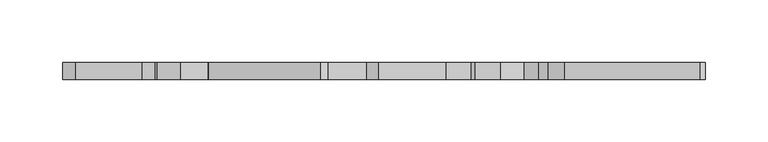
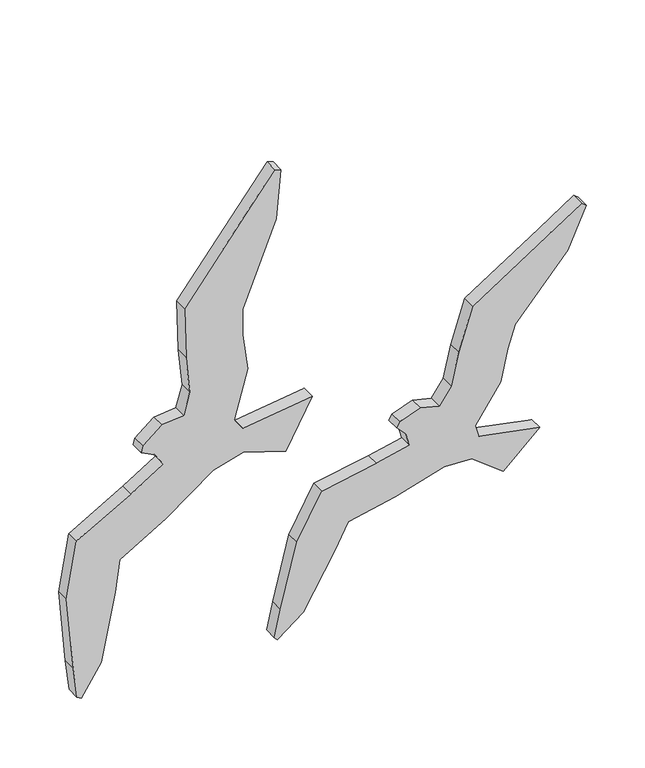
"""IFC4 building model written with IfcOpenShell, lengths in millimetres: geographic element geometry, Enscape AssetDefinition - Decorative Goods 018 Swallow Birds : Enscape AssetDefinition - Decorative Goods 018 Swallow Birds 2."""

import ifcopenshell
import ifcopenshell.guid

model = None  # the IFC model being written
_history = None  # IfcOwnerHistory: only IFC2X3 demands one
_inside = {}  # id of a spatial element -> (the spatial element, [elements in it])
_under = {}  # id of a project, library or spatial element -> (it, [spatial elements below it])
_declared = {}  # id of a project -> (the project, [libraries it declares])
_typed = {}  # id of a type object -> (the type object, [elements of that type])
_made_of = {}  # id of a material, layer set ... -> (it, [elements and type objects made of it])


def new_model(schema):
    """Start an empty IFC model of exactly this schema.

    Asked for "IFC4X3", IfcOpenShell would pick the latest addendum, in which some entities
    have other attributes; the version numbers below select the first issue.
    IFC2X3 requires an IfcOwnerHistory on every rooted entity: one is made here for all.
    """
    global model, _history
    if schema == "IFC4X3":
        model = ifcopenshell.file(schema_version=(4, 3, 0, 0))
    else:
        model = ifcopenshell.file(schema=schema)
    _inside.clear()
    _under.clear()
    _declared.clear()
    _typed.clear()
    _made_of.clear()
    _history = None
    if model.schema == "IFC2X3":
        org = make("IfcOrganization", Name="unknown")
        user = make(
            "IfcPersonAndOrganization",
            ThePerson=make("IfcPerson", FamilyName="unknown"),
            TheOrganization=org,
        )
        app = make(
            "IfcApplication",
            ApplicationDeveloper=org,
            Version="unknown",
            ApplicationFullName="unknown",
            ApplicationIdentifier="unknown",
        )
        _history = make(
            "IfcOwnerHistory",
            OwningUser=user,
            OwningApplication=app,
            ChangeAction="ADDED",
            CreationDate=0,
        )
    return model


def make(cls, **values):
    """One entity of the class cls with the attributes given. An attribute that is None is left unset."""
    return model.create_entity(
        cls, **{name: value for name, value in values.items() if value is not None}
    )


def rooted(cls, **values):
    """An entity with a GlobalId (a new one), such as an element, a storey or a relation."""
    return make(cls, GlobalId=ifcopenshell.guid.new(), OwnerHistory=_history, **values)


def si_unit(unit_type, name, prefix=None):
    """IfcSIUnit, for example si_unit("LENGTHUNIT", "METRE", prefix="MILLI")."""
    return make("IfcSIUnit", UnitType=unit_type, Prefix=prefix, Name=name)


def assignment(units):
    """IfcUnitAssignment: the units of a project."""
    return None if units is None else make("IfcUnitAssignment", Units=units)


def point(xyz):
    """IfcCartesianPoint."""
    return None if xyz is None else make("IfcCartesianPoint", Coordinates=xyz)


def direction(xyz):
    """IfcDirection."""
    return None if xyz is None else make("IfcDirection", DirectionRatios=xyz)


def frame(location, z_axis=None, x_axis=None):
    """IfcAxis2Placement3D, a coordinate frame: its origin and axes. An axis left out is left unset."""
    return make(
        "IfcAxis2Placement3D",
        Location=point(location),
        Axis=direction(z_axis),
        RefDirection=direction(x_axis),
    )


def origin():
    """The frame at (0, 0, 0) with its axes left unset."""
    return frame((0.0, 0.0, 0.0))


def place(relative_to, where):
    """IfcLocalPlacement: puts the frame where relative to a parent placement (None: the world)."""
    return make(
        "IfcLocalPlacement", PlacementRelTo=relative_to, RelativePlacement=where
    )


def context(
    kind, dimensions, precision=None, world=None, true_north=None, identifier=None
):
    """IfcGeometricRepresentationContext, for example the 3D "Model" context."""
    return make(
        "IfcGeometricRepresentationContext",
        ContextIdentifier=identifier,
        ContextType=kind,
        CoordinateSpaceDimension=dimensions,
        Precision=precision,
        WorldCoordinateSystem=world,
        TrueNorth=true_north,
    )


def project(units=None, contexts=None):
    """IfcProject with its units and contexts."""
    return rooted(
        "IfcProject",
        Name="project",
        RepresentationContexts=contexts,
        UnitsInContext=assignment(units),
    )


def spatial(cls, under=None, at=None, **own):
    """A site, building, storey or space (cls), placed at a placement, below another one or the project."""
    s = rooted(cls, ObjectPlacement=at, **own)
    if under is not None:
        _under.setdefault(under.id(), (under, []))[1].append(s)
    return s


def point_list(points):
    """IfcCartesianPointList2D or 3D."""
    cls = (
        "IfcCartesianPointList2D" if len(points[0]) == 2 else "IfcCartesianPointList3D"
    )
    return make(cls, CoordList=points)


def triangles(points, corners, closed=None, point_numbers=None):
    """IfcTriangulatedFaceSet: each triangle names its three corners, points numbered from 1."""
    return make(
        "IfcTriangulatedFaceSet",
        Coordinates=point_list(points),
        Closed=closed,
        CoordIndex=corners,
        PnIndex=point_numbers,
    )


def shape(context_of_items, identifier, shape_type, items):
    """IfcShapeRepresentation: the items that make up one representation, for example the "Body"."""
    return make(
        "IfcShapeRepresentation",
        ContextOfItems=context_of_items,
        RepresentationIdentifier=identifier,
        RepresentationType=shape_type,
        Items=items,
    )


def source(mapping_origin, context_of_items, identifier, shape_type, items):
    """IfcRepresentationMap: a shape defined once, which mapped items show again and again."""
    return make(
        "IfcRepresentationMap",
        MappingOrigin=mapping_origin,
        MappedRepresentation=shape(context_of_items, identifier, shape_type, items),
    )


def transform(
    local_origin,
    x_axis=None,
    y_axis=None,
    z_axis=None,
    scale=None,
    scale2=None,
    scale3=None,
    uniform=True,
):
    """IfcCartesianTransformationOperator3D, or its non-uniform kind. x_axis, y_axis, z_axis: its Axis1, 2, 3."""
    if uniform:
        return make(
            "IfcCartesianTransformationOperator3D",
            Axis1=direction(x_axis),
            Axis2=direction(y_axis),
            LocalOrigin=point(local_origin),
            Scale=scale,
            Axis3=direction(z_axis),
        )
    return make(
        "IfcCartesianTransformationOperator3DnonUniform",
        Axis1=direction(x_axis),
        Axis2=direction(y_axis),
        LocalOrigin=point(local_origin),
        Scale=scale,
        Axis3=direction(z_axis),
        Scale2=scale2,
        Scale3=scale3,
    )


def mapped(mapping_source, mapping_target):
    """IfcMappedItem: shows the shape of a source again, moved by a transform."""
    return make(
        "IfcMappedItem", MappingSource=mapping_source, MappingTarget=mapping_target
    )


def made_of(thing, what):
    """Note that an element or type object is made of a material, layer set ...; save() writes the relation."""
    if what is not None:
        _made_of.setdefault(what.id(), (what, []))[1].append(thing)
    return thing


def element(
    cls,
    number,
    at=None,
    inside=None,
    cuts=None,
    type_object=None,
    material=None,
    context=None,
    identifier="Body",
    shape_type=None,
    held_by="IfcProductDefinitionShape",
    body=None,
    shapes=None,
    **own,
):
    """One element of the class cls, such as IfcWall. Its Tag is "e" and its number.

    at: its placement. inside: the storey or other place that contains it. cuts: it is an
    opening in that element (IfcRelVoidsElement). A single representation is given by context,
    identifier, shape_type and body (its items); several are given by shapes. held_by: the class
    of the entity that holds the representations. save() writes the other relations.
    """
    e = rooted(cls, Tag="e%d" % number, ObjectPlacement=at, **own)
    if body is not None:
        shapes = [shape(context, identifier, shape_type, body)]
    if shapes is not None:
        e.Representation = make(held_by, Representations=shapes)
    if inside is not None:
        _inside.setdefault(inside.id(), (inside, []))[1].append(e)
    if cuts is not None:
        rooted(
            "IfcRelVoidsElement", RelatingBuildingElement=cuts, RelatedOpeningElement=e
        )
    if type_object is not None:
        _typed.setdefault(type_object.id(), (type_object, []))[1].append(e)
    return made_of(e, material)


def aggregate(whole, parts):
    """IfcRelAggregates: a whole, such as a stair, and the parts it consists of."""
    return rooted("IfcRelAggregates", RelatingObject=whole, RelatedObjects=parts)


def save(model, path):
    """Write the relations noted so far, then the file.

    IfcRelAggregates (storeys below a building ...), IfcRelContainedInSpatialStructure (elements
    in a storey), IfcRelDefinesByType, IfcRelAssociatesMaterial and IfcRelDeclares: one each for
    every whole, place, type object, material and project.
    """
    for whole, parts in _under.values():
        aggregate(whole, parts)
    for where, things in _inside.values():
        rooted(
            "IfcRelContainedInSpatialStructure",
            RelatedElements=things,
            RelatingStructure=where,
        )
    for kind, things in _typed.values():
        rooted("IfcRelDefinesByType", RelatedObjects=things, RelatingType=kind)
    for what, things in _made_of.values():
        rooted("IfcRelAssociatesMaterial", RelatedObjects=things, RelatingMaterial=what)
    for by, libraries in _declared.values():
        rooted("IfcRelDeclares", RelatingContext=by, RelatedDefinitions=libraries)
    model.write(path)


def geographic_element_6bdd7eda(model_context):
    return source(origin(), model_context, "Body", "Tessellation", [
        triangles([(-137.8004278, -13.4706644, 434.7301143), (-139.2496762, -13.4706655, 486.0797416), (-137.8004278, -3.12e-05, 434.7301143), (-134.0352507, -13.4706497, 397.1987206), (-78.8184539, -6.81e-05, 563.3999494), (-139.2496762, -4.65e-05, 486.0797416), (-49.0557085, -6.36e-05, 548.0691264), (-81.8521078, -4.09e-05, 465.6930499), (-81.8942109, -3.29e-05, 438.8560616), (-44.3982438, -7.72e-05, 597.869357), (-49.0557085, -13.470669, 548.0691264), (-78.8184539, -13.470669, 563.3999494), (-50.2843807, -13.4706701, 600.0000046), (-44.3982438, -13.4706712, 597.869357), (-50.2843807, -7.89e-05, 600.0000046), (-81.8521078, -13.4706644, 465.6930499), (-81.8942109, -13.4706633, 438.8560616), (-77.0417273, -13.4706519, 401.7286039), (-77.0417273, -3.29e-05, 401.7286039), (-90.232501, -13.4706497, 353.1734645), (-134.0352507, -3.23e-05, 397.1987206), (-162.030099, -13.4706497, 373.1783117), (-140.2048777, -2.61e-05, 374.943829), (-140.2048777, -13.4706497, 374.943829), (-180.6838295, -13.4706497, 357.6896859), (-162.030099, -2.5e-05, 373.1783117), (-181.9242335, -13.4706497, 351.1548377), (-181.9242335, -1.87e-05, 351.1548377), (-168.7857368, -13.4706497, 344.4391502), (-168.7857368, -1.65e-05, 344.4391502), (-180.6838295, -2.1e-05, 357.6896859), (-160.296829, -1.36e-05, 331.60029), (-192.5109238, -7.9e-06, 311.7302819), (-160.296829, -13.4706485, 331.60029), (-192.5109238, -13.4706474, 311.7302819), (-157.4615188, -13.4706462, 274.5355319), (-203.0231637, -13.470644, 246.9970965), (-245.8695127, -13.4706462, 281.0840966), (-255.6488032, -13.4706428, 224.1349927), (-203.0231637, 1.08e-05, 246.9970965), (-245.8695127, 6e-07, 281.0840966), (-157.4615188, 2.8e-06, 274.5355319), (-255.6488032, 1.65e-05, 224.1349927), (-249.0867582, 3.8e-05, 149.6550004), (-221.2529376, -13.4706383, 146.7745076), (-221.2529376, 3.8e-05, 146.7745076), (-207.6358363, 1.93e-05, 214.8617761), (-207.6358363, -13.4706428, 214.8617761), (-249.0867582, -13.4706406, 149.6550004), (-245.3586791, 4.6e-05, 118.5792083), (-245.3586791, -13.4706372, 118.5792083), (-241.1115183, 4.77e-05, 116.3245221), (-241.1115183, -13.4706383, 116.3245221), (-110.9834964, -7.4e-06, 307.9047523), (-110.9834964, -13.4706462, 307.9047523), (-81.621426, -9.6e-06, 316.6676986), (-90.232501, -1.93e-05, 353.1734645), (-81.9145858, -1.65e-05, 341.7172597), (-39.7236518, -5.1e-06, 302.6398303), (-13.7139124, -1.87e-05, 351.0268295), (-81.621426, -13.4706474, 316.6676986), (-39.7236518, -13.4706474, 302.6398303), (-81.9145858, -13.4706485, 341.7172597), (-13.7139124, -13.4706497, 351.0268295), (130.9185169, -13.4706667, 346.0385076), (144.5918193, -5.39e-05, 389.4233957), (123.1888106, -13.4706485, 313.5441247), (144.5918102, -13.4706746, 389.4233957), (217.5697866, -8.34e-05, 436.5994042), (238.0282763, -7.72e-05, 415.1439915), (186.7069721, -4.65e-05, 355.7265427), (123.1888106, -3.06e-05, 313.5441247), (130.9185169, -3.35e-05, 346.0385076), (186.7069721, -13.470669, 355.7265427), (238.0282763, -13.4706814, 415.1439915), (217.5697866, -13.4706849, 436.5994042), (256.3619682, -13.4706883, 455.4620974), (256.3619319, -9.59e-05, 455.4620974), (252.0546003, -13.4706883, 458.9512012), (252.0546003, -9.76e-05, 458.9512012), (178.8918968, -13.4706667, 333.2839445), (178.8918968, -3.58e-05, 333.2839445), (172.1890537, -13.4706497, 300.8123074), (172.1890537, -3.18e-05, 300.8123074), (111.5750937, -13.4706462, 296.7117582), (92.8019027, -13.4706462, 301.5614985), (111.5750937, -2.21e-05, 296.7117764), (82.1989616, -13.4706383, 266.2703206), (72.7041015, -13.4706428, 294.0096158), (92.8019027, -2.1e-05, 301.5614985), (78.8181178, -13.4706417, 279.4735662), (69.7718449, -13.4706428, 288.9014065), (69.7718449, -1.25e-05, 288.9014246), (78.8181178, -9.6e-06, 279.4735844), (72.7041015, -1.53e-05, 294.0096158), (49.48497, -13.4706372, 258.9835015), (49.48497, 2.3e-06, 258.9835015), (116.5907759, 3.4e-06, 232.1484389), (82.1989616, -5.1e-06, 266.2703206), (68.0286329, -13.4706326, 217.701719), (116.5907668, -13.4706372, 232.1484389), (-4.0447948, -13.4706326, 248.8097948), (-28.7363478, 3.58e-05, 203.9948885), (-28.7363478, -13.4706235, 203.9948885), (21.9235891, -13.4706292, 207.8680169), (68.0286329, 1.65e-05, 217.701719), (-4.0447948, 1.42e-05, 248.8097948), (8.74831, 3.92e-05, 182.3172509), (21.9235891, 2.72e-05, 207.8680169), (-22.3832222, 6.53e-05, 129.2954691), (-44.8370479, 6.47e-05, 139.7744443), (8.74831, -13.4706235, 182.3172509), (-50.7263596, -13.4706076, 112.6922765), (-50.7263596, 7.6e-05, 112.6922765), (-44.8370479, -13.4706145, 139.7744443), (-47.8263322, 7.78e-05, 109.5745526), (-22.3832222, -13.4706122, 129.2954691), (-47.8263322, -13.4706099, 109.5745526), (147.0763969, -13.4706428, 264.0096301), (147.0763969, -1.31e-05, 264.0096482), (174.6883379, 5.7e-06, 207.0855247), (143.6986143, 0.0, 230.9686236), (143.6986143, -13.4706372, 230.9686236), (150.7150374, -9.1e-06, 252.0128878), (174.6883379, -13.4706372, 207.0855247), (210.4779957, -1.31e-05, 240.031388), (150.7150374, -13.4706417, 252.0128878), (210.4779957, -13.4706428, 240.031388)], [[128, 125, 126], [127, 128, 126], [127, 125, 128], [127, 123, 125], [125, 121, 126], [125, 123, 121], [124, 126, 121], [127, 126, 124], [119, 127, 124], [119, 123, 127], [119, 101, 123], [119, 88, 101], [123, 122, 121], [123, 101, 122], [124, 121, 122], [120, 124, 122], [119, 124, 120], [101, 98, 122], [120, 122, 98], [118, 113, 116], [117, 113, 118], [118, 116, 110], [117, 118, 110], [113, 114, 116], [110, 116, 114], [117, 115, 113], [113, 115, 114], [112, 115, 117], [112, 108, 109], [117, 110, 108], [112, 117, 108], [115, 111, 114], [108, 110, 111], [110, 114, 111], [112, 104, 115], [115, 104, 111], [104, 103, 111], [109, 108, 103], [108, 111, 103], [109, 103, 107], [106, 109, 107], [98, 106, 97], [106, 107, 97], [105, 109, 106], [105, 112, 109], [105, 104, 112], [102, 107, 103], [105, 102, 104], [104, 102, 103], [102, 97, 107], [100, 106, 98], [101, 100, 98], [100, 105, 106], [100, 102, 105], [102, 96, 97], [100, 96, 102], [101, 88, 96], [101, 96, 100], [120, 98, 99], [96, 88, 99], [98, 97, 99], [96, 99, 97], [92, 95, 93], [94, 93, 95], [88, 94, 99], [88, 91, 94], [91, 92, 93], [91, 93, 94], [92, 89, 95], [89, 92, 91], [95, 90, 94], [99, 94, 90], [89, 90, 95], [89, 86, 90], [86, 89, 91], [88, 86, 91], [88, 85, 86], [119, 85, 88], [86, 85, 87], [99, 90, 87], [120, 99, 87], [86, 87, 90], [85, 72, 87], [85, 67, 72], [83, 119, 120], [83, 67, 85], [83, 85, 119], [84, 120, 87], [84, 87, 72], [83, 120, 84], [81, 83, 84], [67, 83, 81], [82, 84, 72], [81, 84, 82], [74, 81, 82], [76, 79, 80], [76, 80, 69], [69, 80, 78], [79, 78, 80], [79, 77, 78], [76, 77, 79], [76, 75, 77], [77, 75, 70], [69, 78, 70], [77, 70, 78], [75, 74, 70], [74, 71, 70], [74, 82, 71], [72, 73, 82], [73, 71, 82], [67, 73, 72], [66, 69, 70], [73, 66, 71], [66, 70, 71], [68, 76, 69], [68, 74, 75], [68, 69, 66], [68, 75, 76], [65, 68, 66], [67, 65, 73], [65, 81, 74], [65, 66, 73], [65, 74, 68], [65, 67, 81], [64, 62, 60], [63, 64, 60], [63, 62, 64], [63, 61, 62], [62, 59, 60], [62, 61, 59], [58, 60, 59], [63, 60, 58], [20, 63, 58], [20, 61, 63], [20, 55, 61], [20, 34, 55], [61, 56, 59], [61, 55, 56], [58, 59, 56], [57, 58, 56], [20, 58, 57], [55, 54, 56], [57, 56, 54], [53, 51, 52], [45, 51, 53], [53, 52, 46], [45, 53, 46], [51, 50, 52], [46, 52, 50], [45, 49, 51], [51, 49, 50], [48, 49, 45], [48, 47, 40], [45, 46, 47], [48, 45, 47], [49, 44, 50], [47, 46, 44], [46, 50, 44], [48, 39, 49], [49, 39, 44], [39, 43, 44], [40, 47, 43], [47, 44, 43], [40, 43, 41], [42, 40, 41], [54, 42, 33], [42, 41, 33], [37, 40, 42], [37, 48, 40], [37, 39, 48], [38, 41, 43], [37, 38, 39], [39, 38, 43], [38, 33, 41], [36, 42, 54], [55, 36, 54], [36, 37, 42], [36, 38, 37], [38, 35, 33], [36, 35, 38], [55, 34, 35], [55, 35, 36], [57, 54, 32], [35, 34, 32], [54, 33, 32], [35, 32, 33], [27, 31, 28], [30, 28, 31], [34, 30, 32], [34, 29, 30], [29, 27, 28], [29, 28, 30], [27, 25, 31], [25, 27, 29], [31, 26, 30], [32, 30, 26], [25, 26, 31], [25, 22, 26], [22, 25, 29], [34, 22, 29], [34, 24, 22], [20, 24, 34], [22, 24, 23], [32, 26, 23], [57, 32, 23], [22, 23, 26], [24, 21, 23], [24, 4, 21], [18, 20, 57], [18, 4, 24], [18, 24, 20], [19, 57, 23], [19, 23, 21], [18, 57, 19], [17, 18, 19], [4, 18, 17], [9, 19, 21], [17, 19, 9], [16, 17, 9], [12, 13, 15], [12, 15, 5], [5, 15, 10], [13, 10, 15], [13, 14, 10], [12, 14, 13], [12, 11, 14], [14, 11, 7], [5, 10, 7], [14, 7, 10], [11, 16, 7], [16, 8, 7], [16, 9, 8], [21, 3, 9], [3, 8, 9], [4, 3, 21], [6, 5, 7], [3, 6, 8], [6, 7, 8], [2, 12, 5], [2, 16, 11], [2, 5, 6], [2, 11, 12], [1, 2, 6], [4, 1, 3], [1, 17, 16], [1, 6, 3], [1, 16, 2], [1, 4, 17]]),
    ])


if __name__ == "__main__":
    model = new_model("IFC4")
    model_context = context("Model", 3, world=origin())
    ifc_project = project(units=[si_unit("LENGTHUNIT", "METRE", prefix="MILLI")], contexts=[model_context])
    site = spatial("IfcSite", under=ifc_project)
    building = spatial("IfcBuilding", under=site)
    placement = place(None, origin())
    geographic_element_shape = geographic_element_6bdd7eda(model_context)
    element("IfcGeographicElement", 1, ObjectType="Enscape AssetDefinition - Decorative Goods 018 Swallow Birds : Enscape AssetDefinition - Decorative Goods 018 Swallow Birds 2", at=placement, inside=building, context=model_context, shape_type="MappedRepresentation", body=[
        mapped(geographic_element_shape, transform((0.0, 0.0, 0.0), x_axis=(1.0, 0.0, 0.0), y_axis=(0.0, 1.0, 0.0), z_axis=(0.0, 0.0, 1.0))),
    ])
    save(model, "model.ifc")
